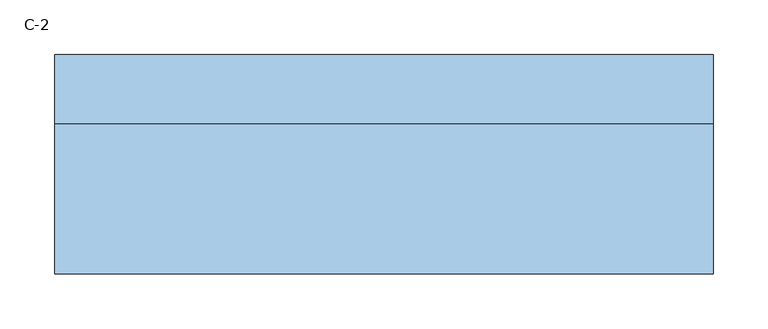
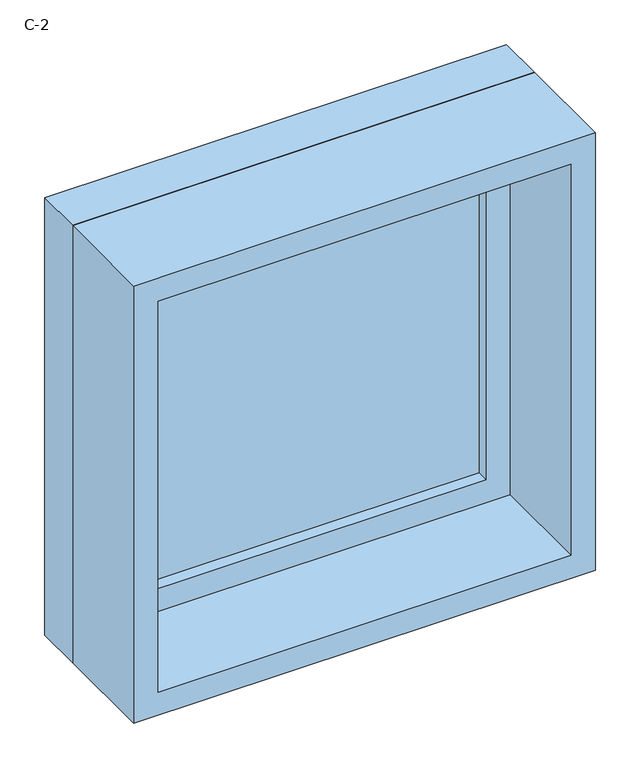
"""IFC4 building model written with IfcOpenShell, lengths in millimetres: window geometry, 固定 : C-2."""

from ifc_helpers import new_model, si_unit, frame, origin, place, context, project, spatial, polyline, outline, extrude, source, transform, mapped, element, save


def c_2_83bb7daf(model_context):
    return source(origin(), model_context, "Body", "SweptSolid", [
        extrude(outline(polyline([(-237.0, 78.0), (237.0, 78.0), (237.0, 66.0), (-237.0, 66.0), (-237.0, 78.0)])), frame((0.0, 0.0, 978.0), z_axis=(0.0, 0.0, 1.0), x_axis=(1.0, 0.0, 0.0)), (0.0, 0.0, 1.0), 474.0),
        extrude(outline(polyline([(1496.0, -281.0), (934.0, -281.0), (934.0, 281.0), (1496.0, 281.0), (1496.0, -281.0)]), holes=[polyline([(1452.0, -237.0), (1452.0, 237.0), (978.0, 237.0), (978.0, -237.0), (1452.0, -237.0)])]), frame((0.0, 50.0, 0.0), z_axis=(0.0, 1.0, 0.0), x_axis=(0.0, 0.0, 1.0)), (0.0, 0.0, 1.0), 44.0),
        extrude(outline(polyline([(1515.0, -300.0), (915.0, -300.0), (915.0, 300.0), (1515.0, 300.0), (1515.0, -300.0)]), holes=[polyline([(1496.0, -281.0), (1496.0, 281.0), (934.0, 281.0), (934.0, -281.0), (1496.0, -281.0)])]), frame((0.0, 50.0, 0.0), z_axis=(0.0, 1.0, 0.0), x_axis=(0.0, 0.0, 1.0)), (0.0, 0.0, 1.0), 63.0),
        extrude(outline(polyline([(1515.0, -300.0), (915.0, -300.0), (915.0, 300.0), (1515.0, 300.0), (1515.0, -300.0)]), holes=[polyline([(1483.0, -268.0), (1483.0, 268.0), (947.0, 268.0), (947.0, -268.0), (1483.0, -268.0)])]), frame((0.0, -87.0, 0.0), z_axis=(0.0, 1.0, 0.0), x_axis=(0.0, 0.0, 1.0)), (0.0, 0.0, 1.0), 137.0),
    ])


if __name__ == "__main__":
    model = new_model("IFC4")
    model_context = context("Model", 3, world=origin())
    ifc_project = project(units=[si_unit("LENGTHUNIT", "METRE", prefix="MILLI")], contexts=[model_context])
    site = spatial("IfcSite", under=ifc_project)
    building = spatial("IfcBuilding", under=site)
    placement = place(None, origin())
    c_2_shape = c_2_83bb7daf(model_context)
    element("IfcWindow", 1, ObjectType="固定 : C-2", at=placement, inside=building, context=model_context, shape_type="MappedRepresentation", body=[
        mapped(c_2_shape, transform((0.0, 0.0, 0.0), x_axis=(1.0, 0.0, 0.0), y_axis=(0.0, 1.0, 0.0), z_axis=(0.0, 0.0, 1.0))),
    ])
    save(model, "model.ifc")
